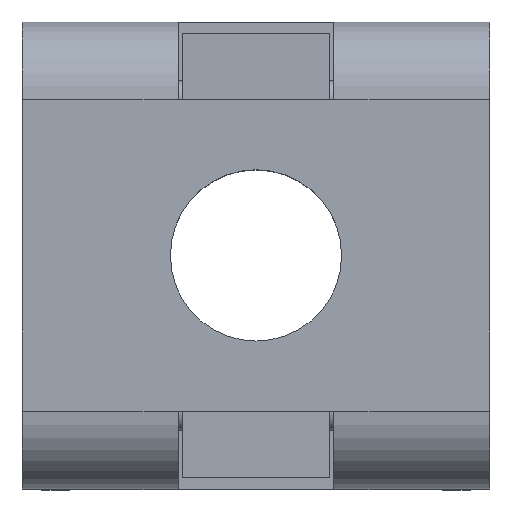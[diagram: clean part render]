
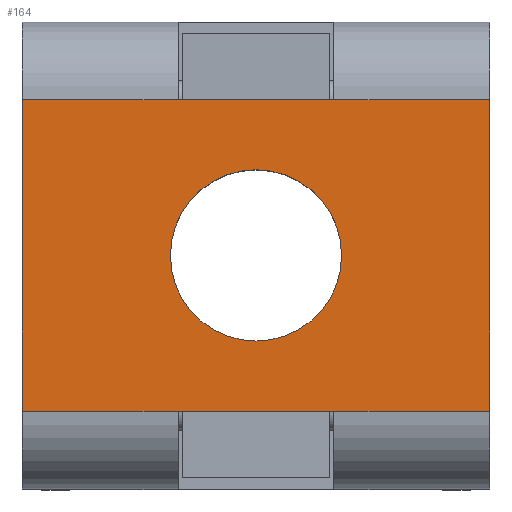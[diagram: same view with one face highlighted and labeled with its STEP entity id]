
A CAD part, top view. The second image highlights one B-rep face of the part: STEP entity #164.
In plain terms, the highlighted planar face has unit normal (0, 0, 1).
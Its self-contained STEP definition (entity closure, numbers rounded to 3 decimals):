
#105=FACE_BOUND('',#330,.T.);
#106=FACE_BOUND('',#331,.T.);
#164=ADVANCED_FACE('',(#105,#106),#226,.F.);
#226=PLANE('',#1452);
#330=EDGE_LOOP('',(#593));
#331=EDGE_LOOP('',(#594,#595,#596,#597,#598,#599,#600,#601));
#417=CIRCLE('',#1451,2.2);
#593=ORIENTED_EDGE('',*,*,#1051,.F.);
#594=ORIENTED_EDGE('',*,*,#1052,.F.);
#595=ORIENTED_EDGE('',*,*,#978,.F.);
#596=ORIENTED_EDGE('',*,*,#1043,.T.);
#597=ORIENTED_EDGE('',*,*,#1024,.F.);
#598=ORIENTED_EDGE('',*,*,#1042,.T.);
#599=ORIENTED_EDGE('',*,*,#1048,.T.);
#600=ORIENTED_EDGE('',*,*,#1053,.F.);
#601=ORIENTED_EDGE('',*,*,#1018,.F.);
#845=VERTEX_POINT('',#1962);
#852=VERTEX_POINT('',#1977);
#886=VERTEX_POINT('',#2056);
#887=VERTEX_POINT('',#2058);
#890=VERTEX_POINT('',#2065);
#892=VERTEX_POINT('',#2069);
#894=VERTEX_POINT('',#2098);
#896=VERTEX_POINT('',#2109);
#897=VERTEX_POINT('',#2115);
#978=EDGE_CURVE('',#852,#845,#1150,.T.);
#1018=EDGE_CURVE('',#886,#887,#1178,.T.);
#1024=EDGE_CURVE('',#892,#890,#1184,.T.);
#1042=EDGE_CURVE('',#892,#894,#1196,.T.);
#1043=EDGE_CURVE('',#852,#890,#1197,.T.);
#1048=EDGE_CURVE('',#894,#896,#1200,.T.);
#1051=EDGE_CURVE('',#897,#897,#417,.T.);
#1052=EDGE_CURVE('',#845,#886,#1203,.T.);
#1053=EDGE_CURVE('',#887,#896,#1204,.T.);
#1150=LINE('',#1978,#1286);
#1178=LINE('',#2057,#1314);
#1184=LINE('',#2070,#1320);
#1196=LINE('',#2099,#1332);
#1197=LINE('',#2101,#1333);
#1200=LINE('',#2110,#1336);
#1203=LINE('',#2116,#1339);
#1204=LINE('',#2117,#1340);
#1286=VECTOR('',#1579,1.);
#1314=VECTOR('',#1641,1.);
#1320=VECTOR('',#1649,1.);
#1332=VECTOR('',#1691,1.);
#1333=VECTOR('',#1694,1.);
#1336=VECTOR('',#1705,1.);
#1339=VECTOR('',#1712,1.);
#1340=VECTOR('',#1713,1.);
#1451=AXIS2_PLACEMENT_3D('',#2114,#1710,#1711);
#1452=AXIS2_PLACEMENT_3D('',#2118,#1714,#1715);
#1579=DIRECTION('',(0.,-1.,0.));
#1641=DIRECTION('',(-1.,0.,0.));
#1649=DIRECTION('',(1.,0.,0.));
#1691=DIRECTION('',(-1.,0.,0.));
#1694=DIRECTION('',(-1.,0.,0.));
#1705=DIRECTION('',(0.,-1.,0.));
#1710=DIRECTION('',(0.,0.,1.));
#1711=DIRECTION('',(0.,1.,0.));
#1712=DIRECTION('',(-1.,0.,0.));
#1713=DIRECTION('',(-1.,0.,0.));
#1714=DIRECTION('',(0.,0.,-1.));
#1715=DIRECTION('',(0.,1.,0.));
#1962=CARTESIAN_POINT('',(13.25,3.25,10.));
#1977=CARTESIAN_POINT('',(13.25,11.25,10.));
#1978=CARTESIAN_POINT('',(13.25,1.,10.));
#2056=CARTESIAN_POINT('',(9.25,3.25,10.));
#2057=CARTESIAN_POINT('',(9.5,3.25,10.));
#2058=CARTESIAN_POINT('',(5.25,3.25,10.));
#2065=CARTESIAN_POINT('',(9.25,11.25,10.));
#2069=CARTESIAN_POINT('',(5.25,11.25,10.));
#2070=CARTESIAN_POINT('',(5.,11.25,10.));
#2098=CARTESIAN_POINT('',(1.25,11.25,10.));
#2099=CARTESIAN_POINT('',(14.5,11.25,10.));
#2101=CARTESIAN_POINT('',(14.5,11.25,10.));
#2109=CARTESIAN_POINT('',(1.25,3.25,10.));
#2110=CARTESIAN_POINT('',(1.25,6.25,10.));
#2114=CARTESIAN_POINT('',(7.25,7.25,10.));
#2115=CARTESIAN_POINT('',(7.25,9.45,10.));
#2116=CARTESIAN_POINT('',(14.5,3.25,10.));
#2117=CARTESIAN_POINT('',(14.5,3.25,10.));
#2118=CARTESIAN_POINT('',(14.5,6.25,10.));
